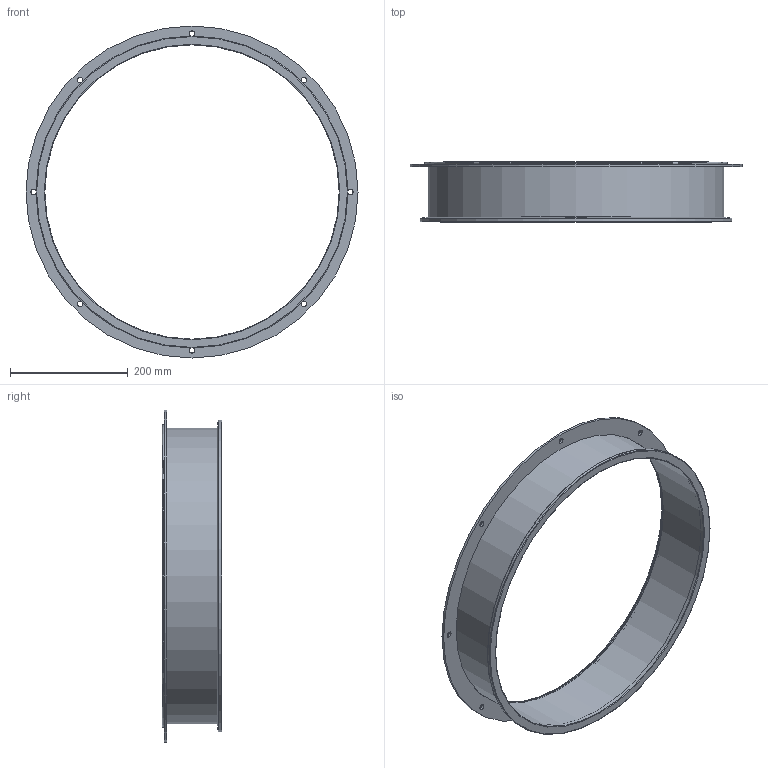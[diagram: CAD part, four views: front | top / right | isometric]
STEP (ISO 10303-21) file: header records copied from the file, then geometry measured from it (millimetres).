
FILE_DESCRIPTION(/* description */ (''),/* implementation_level */ '2;1');
FILE_NAME(/* name */ 'METU_EA110-41B_500_L100.stp',/* time_stamp */ '2018-10-10T13:32:45+02:00',/* author */ (''),/* organization */ (''),/* preprocessor_version */ 'ST-DEVELOPER v11',/* originating_system */ 'SIEMENS UGS NX 6.0',/* authorisation */ '');
FILE_SCHEMA (('CONFIG_CONTROL_DESIGN'));
Length unit declared in the file: millimetre
Products named in the file (1): garsCF17de98
Bounding box: 564 x 101.5 x 564 mm (x, y, z)
Volume: 553429.3 mm3; surface area: 538247.9 mm2
Topology: 3 solids, 3 shells, 32 faces, 77 edges, 54 vertices
Faces by surface type: cylinder 17, plane 9, torus 5, cone 1
Full cylindrical faces by diameter (mm): 9.5 x8, 500 x2, 502 x2, 504 x1, 512 x2, 530 x1, 564 x1
Entity records: 850 total; most frequent: DIRECTION 146, CARTESIAN_POINT 113, FACE_BOUND 80, EDGE_LOOP 80, ORIENTED_EDGE 80, AXIS2_PLACEMENT_3D 73, VERTEX_POINT 40, EDGE_CURVE 40
